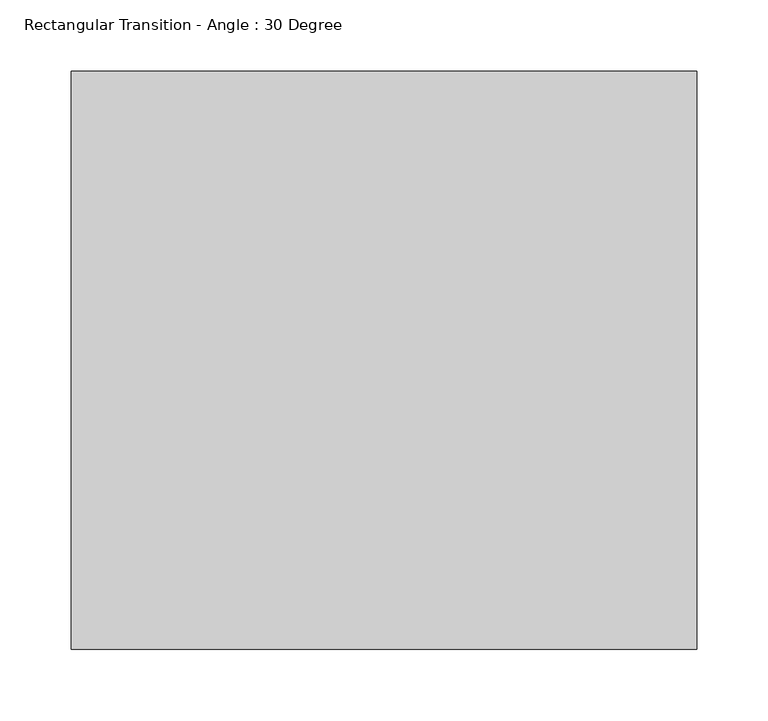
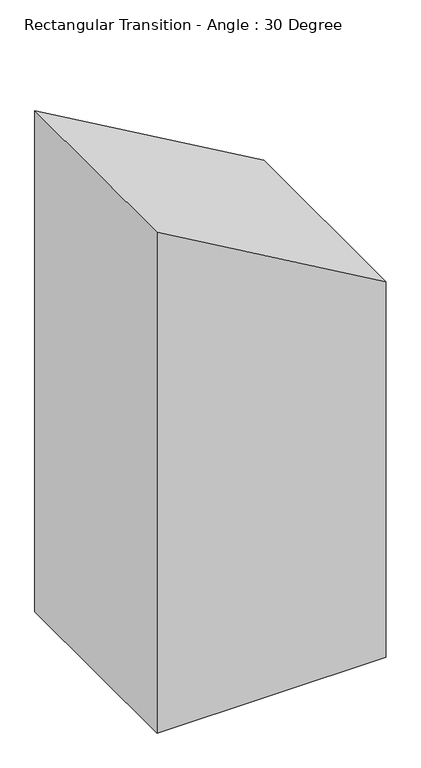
"""IFC4 building model written with IfcOpenShell, lengths in millimetres: duct fitting geometry, Rectangular Transition - Angle : 30 Degree."""

from ifc_helpers import new_model, si_unit, frame, origin, place, context, project, spatial, polyline, outline, extrude, source, transform, mapped, element, save


def rectangular_transition_angle_30_degree_5d7b45e3(model_context):
    return source(origin(), model_context, "Body", "SweptSolid", [
        extrude(outline(polyline([(508.0, 0.0), (-508.0, 0.0), (-508.0, 439.9409051), (254.0, 439.9409051), (508.0, 0.0)])), frame((0.0, -203.2, 0.0), z_axis=(0.0, 1.0, 0.0), x_axis=(0.0, 0.0, 1.0)), (0.0, 0.0, 1.0), 406.4),
    ])


if __name__ == "__main__":
    model = new_model("IFC4")
    model_context = context("Model", 3, world=origin())
    ifc_project = project(units=[si_unit("LENGTHUNIT", "METRE", prefix="MILLI")], contexts=[model_context])
    site = spatial("IfcSite", under=ifc_project)
    building = spatial("IfcBuilding", under=site)
    placement = place(None, origin())
    rectangular_transition_angle_30_degree_shape = rectangular_transition_angle_30_degree_5d7b45e3(model_context)
    element("IfcDuctFitting", 1, ObjectType="Rectangular Transition - Angle : 30 Degree", at=placement, inside=building, context=model_context, shape_type="MappedRepresentation", body=[
        mapped(rectangular_transition_angle_30_degree_shape, transform((0.0, 0.0, 0.0), x_axis=(1.0, 0.0, 0.0), y_axis=(0.0, 1.0, 0.0), z_axis=(0.0, 0.0, 1.0))),
    ])
    save(model, "model.ifc")
